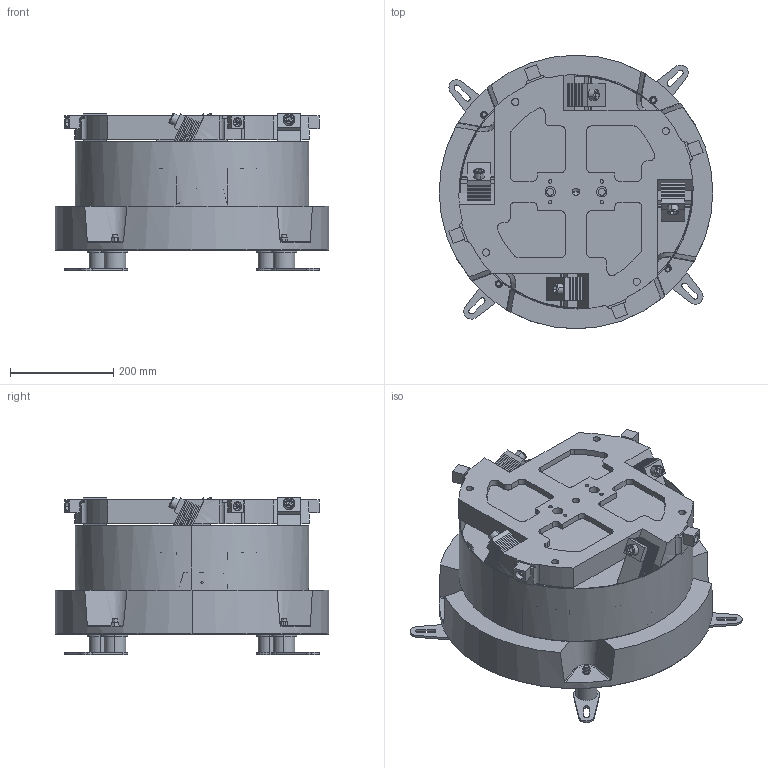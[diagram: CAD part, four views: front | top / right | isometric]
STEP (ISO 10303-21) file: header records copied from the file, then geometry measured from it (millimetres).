
FILE_DESCRIPTION(/* description */ (''),/* implementation_level */ '2;1');
FILE_NAME(/* name */ 'DF460.stp',/* time_stamp */ '2022-04-15T11:16:32+08:00',/* author */ (''),/* organization */ (''),/* preprocessor_version */ 'ST-DEVELOPER v18.102',/* originating_system */ 'SIEMENS PLM Software NX 2019',/* authorisation */ '');
FILE_SCHEMA (('AUTOMOTIVE_DESIGN { 1 0 10303 214 3 1 1 1 }'));
Length unit declared in the file: millimetre
Products named in the file (1): DF460_stp_objects
Bounding box: 530 x 530 x 304.96 mm (x, y, z)
Volume: 31117542.3 mm3; surface area: 2167518.5 mm2
Topology: 75 solids, 75 shells, 1182 faces, 2918 edges, 1874 vertices
Faces by surface type: plane 631, cylinder 399, cone 132, torus 12, extrusion 4, bspline 4
Full cylindrical faces by diameter (mm): 181 x1
Entity records: 36898 total; most frequent: CARTESIAN_POINT 7488, DIRECTION 5920, ORIENTED_EDGE 5722, EDGE_CURVE 2861, AXIS2_PLACEMENT_3D 2124, VERTEX_POINT 1876, VECTOR 1672, LINE 1668
